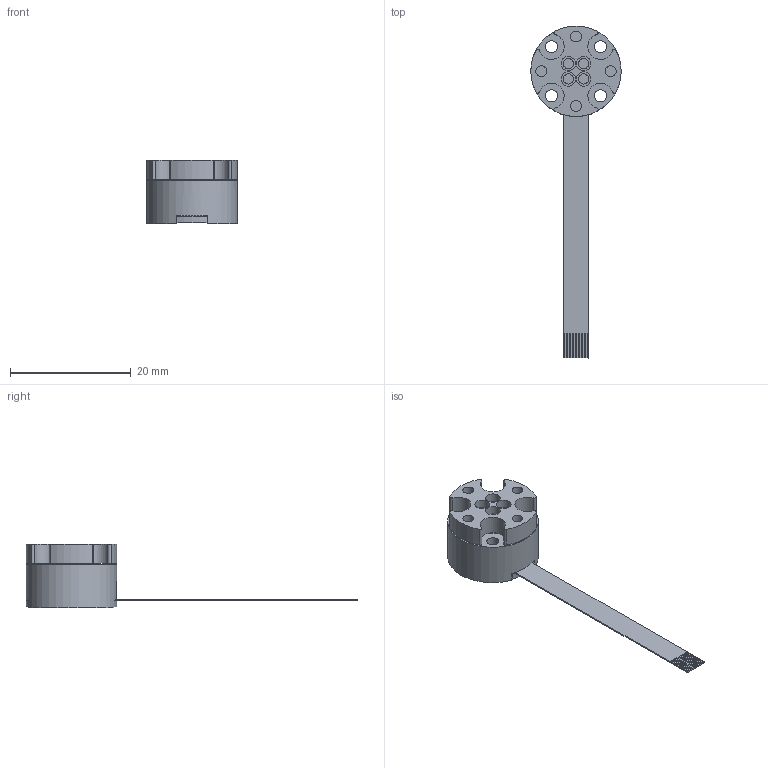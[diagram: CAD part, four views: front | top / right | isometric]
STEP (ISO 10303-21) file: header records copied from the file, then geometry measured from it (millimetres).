
FILE_DESCRIPTION (( 'STEP AP203' ), '1' );
FILE_NAME ('AFT20-D15.STEP', '2022-02-25T10:42:40', ( '' ), ( '' ), 'SwSTEP 2.0', 'SolidWorks 2020', '' );
FILE_SCHEMA (( 'CONFIG_CONTROL_DESIGN' ));
Length unit declared in the file: millimetre
Products named in the file (5): FPC_dum; Bottom_part_dum; AFT20-D15; Top_part_dum; Deformable_part_v1_20N-150Nmm_dum
Assembly tree (4 placements, depth 2):
  AFT20-D15
    Deformable_part_v1_20N-150Nmm_dum
    Top_part_dum
    Bottom_part_dum
    FPC_dum
Bounding box: 15 x 55.01 x 10.6 mm (x, y, z)
Volume: 1496.6 mm3; surface area: 2199.5 mm2
Topology: 4 solids, 4 shells, 162 faces, 443 edges, 298 vertices
Faces by surface type: cylinder 83, plane 79
Full cylindrical faces by diameter (mm): 1.7 x4, 1.8 x4, 2 x4, 2.4 x4, 15 x1
Entity records: 5589 total; most frequent: DIRECTION 924, CARTESIAN_POINT 875, ORIENTED_EDGE 834, EDGE_CURVE 417, AXIS2_PLACEMENT_3D 338, VERTEX_POINT 289, VECTOR 248, LINE 248
